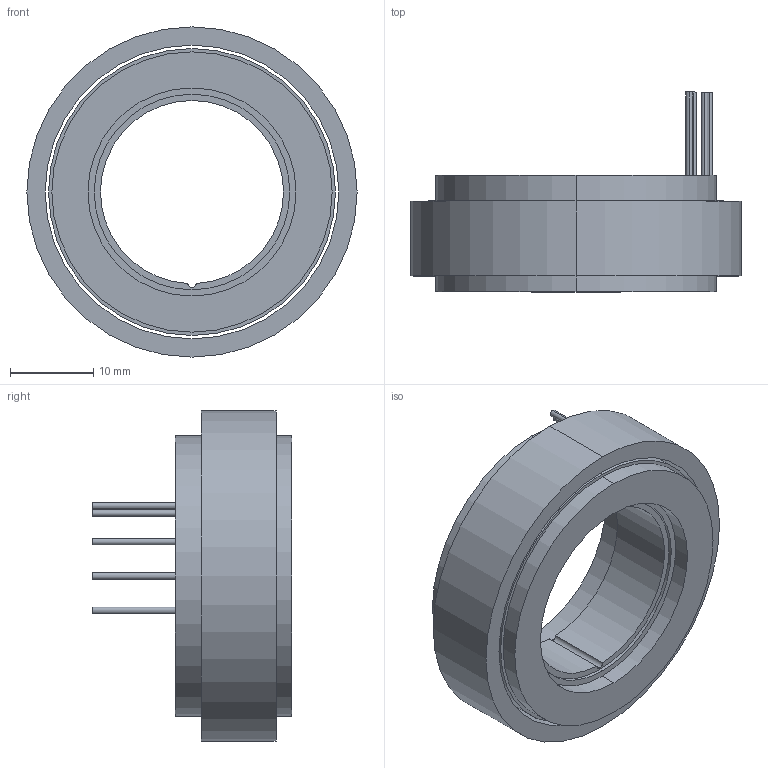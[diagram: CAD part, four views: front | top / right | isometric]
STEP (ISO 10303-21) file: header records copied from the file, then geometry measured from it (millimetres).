
FILE_DESCRIPTION (( 'STEP AP214' ), '1' );
FILE_NAME ('UE4014µç»ú.STEP', '2026-03-11T05:42:54', ( 'Windows User' ), ( 'P R C' ), 'SwSTEP 2.0', 'SolidWorks 2023', '' );
FILE_SCHEMA (( 'AUTOMOTIVE_DESIGN' ));
Length unit declared in the file: millimetre
Products named in the file (1): UE4014电机
Bounding box: 39.7 x 24 x 39.7 mm (x, y, z)
Volume: 9277.4 mm3; surface area: 6402.6 mm2
Topology: 2 solids, 2 shells, 49 faces, 99 edges, 66 vertices
Faces by surface type: cylinder 33, plane 16
Entity records: 1359 total; most frequent: DIRECTION 265, CARTESIAN_POINT 215, ORIENTED_EDGE 198, AXIS2_PLACEMENT_3D 116, EDGE_CURVE 99, VERTEX_POINT 66, CIRCLE 66, EDGE_LOOP 65
